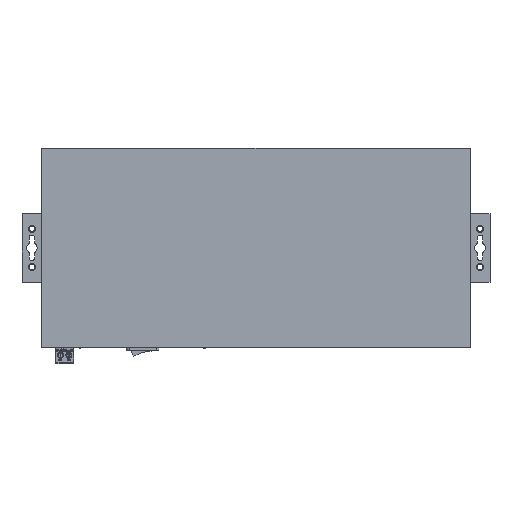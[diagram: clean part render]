
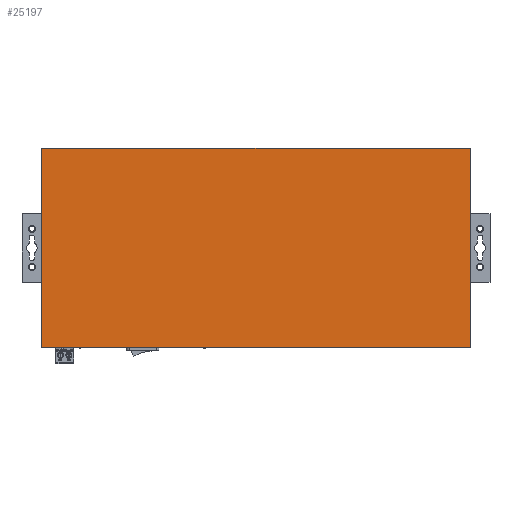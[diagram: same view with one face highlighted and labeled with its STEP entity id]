
A CAD part, top view. The second image highlights one B-rep face of the part: STEP entity #25197.
In plain terms, the highlighted planar face has unit normal (0, 0, 1).
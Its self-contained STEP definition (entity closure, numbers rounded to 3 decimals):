
#9152 = PLANE('',#9153);
#9153 = AXIS2_PLACEMENT_3D('',#9154,#9155,#9156);
#9154 = CARTESIAN_POINT('',(-14.,0.,0.));
#9155 = DIRECTION('',(0.,1.,0.));
#9156 = DIRECTION('',(0.,0.,1.));
#13121 = VERTEX_POINT('',#13122);
#13122 = CARTESIAN_POINT('',(-1.,0.,43.));
#13136 = PLANE('',#13137);
#13137 = AXIS2_PLACEMENT_3D('',#13138,#13139,#13140);
#13138 = CARTESIAN_POINT('',(-1.,42.5,0.));
#13139 = DIRECTION('',(-1.,0.,0.));
#13140 = DIRECTION('',(0.,0.,-1.));
#13148 = EDGE_CURVE('',#13121,#13149,#13151,.T.);
#13149 = VERTEX_POINT('',#13150);
#13150 = CARTESIAN_POINT('',(279.,0.,43.));
#13151 = SURFACE_CURVE('',#13152,(#13156,#13163),.PCURVE_S1.);
#13152 = LINE('',#13153,#13154);
#13153 = CARTESIAN_POINT('',(-14.,0.,43.));
#13154 = VECTOR('',#13155,1.);
#13155 = DIRECTION('',(1.,0.,0.));
#13156 = PCURVE('',#9152,#13157);
#13157 = DEFINITIONAL_REPRESENTATION('',(#13158),#13162);
#13158 = LINE('',#13159,#13160);
#13159 = CARTESIAN_POINT('',(43.,0.));
#13160 = VECTOR('',#13161,1.);
#13161 = DIRECTION('',(0.,1.));
#13162 = ( GEOMETRIC_REPRESENTATION_CONTEXT(2) 
PARAMETRIC_REPRESENTATION_CONTEXT() REPRESENTATION_CONTEXT('2D SPACE',''
  ) );
#13163 = PCURVE('',#13164,#13169);
#13164 = PLANE('',#13165);
#13165 = AXIS2_PLACEMENT_3D('',#13166,#13167,#13168);
#13166 = CARTESIAN_POINT('',(-14.,0.,43.));
#13167 = DIRECTION('',(0.,0.,1.));
#13168 = DIRECTION('',(1.,0.,0.));
#13169 = DEFINITIONAL_REPRESENTATION('',(#13170),#13174);
#13170 = LINE('',#13171,#13172);
#13171 = CARTESIAN_POINT('',(0.,0.));
#13172 = VECTOR('',#13173,1.);
#13173 = DIRECTION('',(1.,0.));
#13174 = ( GEOMETRIC_REPRESENTATION_CONTEXT(2) 
PARAMETRIC_REPRESENTATION_CONTEXT() REPRESENTATION_CONTEXT('2D SPACE',''
  ) );
#13192 = PLANE('',#13193);
#13193 = AXIS2_PLACEMENT_3D('',#13194,#13195,#13196);
#13194 = CARTESIAN_POINT('',(279.,0.,0.));
#13195 = DIRECTION('',(-1.,0.,0.));
#13196 = DIRECTION('',(0.,0.,-1.));
#20691 = PLANE('',#20692);
#20692 = AXIS2_PLACEMENT_3D('',#20693,#20694,#20695);
#20693 = CARTESIAN_POINT('',(-14.,130.,0.));
#20694 = DIRECTION('',(0.,1.,0.));
#20695 = DIRECTION('',(0.,0.,1.));
#23618 = EDGE_CURVE('',#13149,#23619,#23621,.T.);
#23619 = VERTEX_POINT('',#23620);
#23620 = CARTESIAN_POINT('',(279.,130.,43.));
#23621 = SURFACE_CURVE('',#23622,(#23626,#23633),.PCURVE_S1.);
#23622 = LINE('',#23623,#23624);
#23623 = CARTESIAN_POINT('',(279.,-2.5,43.));
#23624 = VECTOR('',#23625,1.);
#23625 = DIRECTION('',(0.,1.,0.));
#23626 = PCURVE('',#13192,#23627);
#23627 = DEFINITIONAL_REPRESENTATION('',(#23628),#23632);
#23628 = LINE('',#23629,#23630);
#23629 = CARTESIAN_POINT('',(-43.,2.5));
#23630 = VECTOR('',#23631,1.);
#23631 = DIRECTION('',(0.,-1.));
#23632 = ( GEOMETRIC_REPRESENTATION_CONTEXT(2) 
PARAMETRIC_REPRESENTATION_CONTEXT() REPRESENTATION_CONTEXT('2D SPACE',''
  ) );
#23633 = PCURVE('',#13164,#23634);
#23634 = DEFINITIONAL_REPRESENTATION('',(#23635),#23638);
#23635 = B_SPLINE_CURVE_WITH_KNOTS('',1,(#23636,#23637),.UNSPECIFIED.,
  .F.,.F.,(2,2),(-10.5,145.5),.PIECEWISE_BEZIER_KNOTS.);
#23636 = CARTESIAN_POINT('',(293.,-13.));
#23637 = CARTESIAN_POINT('',(293.,143.));
#23638 = ( GEOMETRIC_REPRESENTATION_CONTEXT(2) 
PARAMETRIC_REPRESENTATION_CONTEXT() REPRESENTATION_CONTEXT('2D SPACE',''
  ) );
#25197 = ADVANCED_FACE('',(#25198),#13164,.T.);
#25198 = FACE_BOUND('',#25199,.T.);
#25199 = EDGE_LOOP('',(#25200,#25223,#25243,#25244));
#25200 = ORIENTED_EDGE('',*,*,#25201,.F.);
#25201 = EDGE_CURVE('',#25202,#23619,#25204,.T.);
#25202 = VERTEX_POINT('',#25203);
#25203 = CARTESIAN_POINT('',(-1.,130.,43.));
#25204 = SURFACE_CURVE('',#25205,(#25209,#25216),.PCURVE_S1.);
#25205 = LINE('',#25206,#25207);
#25206 = CARTESIAN_POINT('',(-14.,130.,43.));
#25207 = VECTOR('',#25208,1.);
#25208 = DIRECTION('',(1.,0.,0.));
#25209 = PCURVE('',#13164,#25210);
#25210 = DEFINITIONAL_REPRESENTATION('',(#25211),#25215);
#25211 = LINE('',#25212,#25213);
#25212 = CARTESIAN_POINT('',(0.,130.));
#25213 = VECTOR('',#25214,1.);
#25214 = DIRECTION('',(1.,0.));
#25215 = ( GEOMETRIC_REPRESENTATION_CONTEXT(2) 
PARAMETRIC_REPRESENTATION_CONTEXT() REPRESENTATION_CONTEXT('2D SPACE',''
  ) );
#25216 = PCURVE('',#20691,#25217);
#25217 = DEFINITIONAL_REPRESENTATION('',(#25218),#25222);
#25218 = LINE('',#25219,#25220);
#25219 = CARTESIAN_POINT('',(43.,0.));
#25220 = VECTOR('',#25221,1.);
#25221 = DIRECTION('',(0.,1.));
#25222 = ( GEOMETRIC_REPRESENTATION_CONTEXT(2) 
PARAMETRIC_REPRESENTATION_CONTEXT() REPRESENTATION_CONTEXT('2D SPACE',''
  ) );
#25223 = ORIENTED_EDGE('',*,*,#25224,.F.);
#25224 = EDGE_CURVE('',#13121,#25202,#25225,.T.);
#25225 = SURFACE_CURVE('',#25226,(#25230,#25236),.PCURVE_S1.);
#25226 = LINE('',#25227,#25228);
#25227 = CARTESIAN_POINT('',(-1.,-2.5,43.));
#25228 = VECTOR('',#25229,1.);
#25229 = DIRECTION('',(0.,1.,0.));
#25230 = PCURVE('',#13164,#25231);
#25231 = DEFINITIONAL_REPRESENTATION('',(#25232),#25235);
#25232 = B_SPLINE_CURVE_WITH_KNOTS('',1,(#25233,#25234),.UNSPECIFIED.,
  .F.,.F.,(2,2),(-10.5,145.5),.PIECEWISE_BEZIER_KNOTS.);
#25233 = CARTESIAN_POINT('',(13.,-13.));
#25234 = CARTESIAN_POINT('',(13.,143.));
#25235 = ( GEOMETRIC_REPRESENTATION_CONTEXT(2) 
PARAMETRIC_REPRESENTATION_CONTEXT() REPRESENTATION_CONTEXT('2D SPACE',''
  ) );
#25236 = PCURVE('',#13136,#25237);
#25237 = DEFINITIONAL_REPRESENTATION('',(#25238),#25242);
#25238 = LINE('',#25239,#25240);
#25239 = CARTESIAN_POINT('',(-43.,45.));
#25240 = VECTOR('',#25241,1.);
#25241 = DIRECTION('',(0.,-1.));
#25242 = ( GEOMETRIC_REPRESENTATION_CONTEXT(2) 
PARAMETRIC_REPRESENTATION_CONTEXT() REPRESENTATION_CONTEXT('2D SPACE',''
  ) );
#25243 = ORIENTED_EDGE('',*,*,#13148,.T.);
#25244 = ORIENTED_EDGE('',*,*,#23618,.T.);
